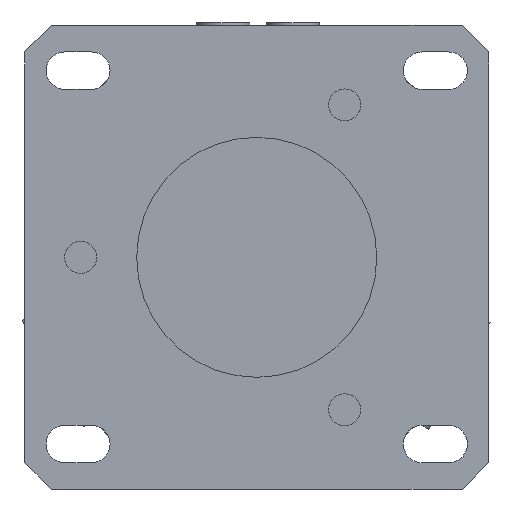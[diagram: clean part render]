
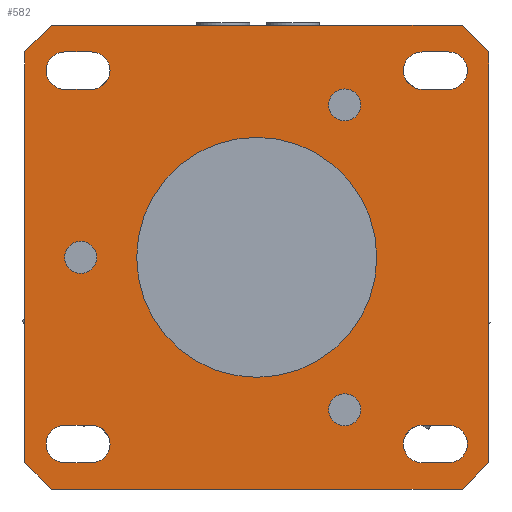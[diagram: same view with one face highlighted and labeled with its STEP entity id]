
A CAD part, front view. The second image highlights one B-rep face of the part: STEP entity #582.
In plain terms, the highlighted planar face has unit normal (0, -1, 0).
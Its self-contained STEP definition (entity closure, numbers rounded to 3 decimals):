
#72=FACE_BOUND('',#905,.T.);
#73=FACE_BOUND('',#906,.T.);
#74=FACE_BOUND('',#907,.T.);
#75=FACE_BOUND('',#908,.T.);
#76=FACE_BOUND('',#909,.T.);
#77=FACE_BOUND('',#910,.T.);
#78=FACE_BOUND('',#911,.T.);
#79=FACE_BOUND('',#912,.T.);
#80=FACE_BOUND('',#913,.T.);
#423=CIRCLE('',#2445,3.);
#425=CIRCLE('',#2448,3.);
#427=CIRCLE('',#2453,3.);
#429=CIRCLE('',#2456,22.5);
#431=CIRCLE('',#2469,3.5);
#433=CIRCLE('',#2473,3.5);
#435=CIRCLE('',#2476,3.5);
#437=CIRCLE('',#2480,3.5);
#439=CIRCLE('',#2483,3.5);
#441=CIRCLE('',#2487,3.5);
#443=CIRCLE('',#2490,3.5);
#445=CIRCLE('',#2494,3.5);
#582=ADVANCED_FACE('',(#72,#73,#74,#75,#76,#77,#78,#79,#80),#693,.T.);
#693=PLANE('',#2497);
#905=EDGE_LOOP('',(#1330));
#906=EDGE_LOOP('',(#1331,#1332,#1333,#1334));
#907=EDGE_LOOP('',(#1335,#1336,#1337,#1338));
#908=EDGE_LOOP('',(#1339,#1340,#1341,#1342));
#909=EDGE_LOOP('',(#1343,#1344,#1345,#1346));
#910=EDGE_LOOP('',(#1347));
#911=EDGE_LOOP('',(#1348));
#912=EDGE_LOOP('',(#1349,#1350,#1351,#1352,#1353,#1354,#1355,#1356));
#913=EDGE_LOOP('',(#1357));
#1330=ORIENTED_EDGE('',*,*,#1879,.T.);
#1331=ORIENTED_EDGE('',*,*,#1957,.F.);
#1332=ORIENTED_EDGE('',*,*,#1884,.F.);
#1333=ORIENTED_EDGE('',*,*,#1952,.F.);
#1334=ORIENTED_EDGE('',*,*,#1955,.F.);
#1335=ORIENTED_EDGE('',*,*,#1949,.F.);
#1336=ORIENTED_EDGE('',*,*,#1904,.F.);
#1337=ORIENTED_EDGE('',*,*,#1944,.F.);
#1338=ORIENTED_EDGE('',*,*,#1947,.F.);
#1339=ORIENTED_EDGE('',*,*,#1941,.F.);
#1340=ORIENTED_EDGE('',*,*,#1900,.F.);
#1341=ORIENTED_EDGE('',*,*,#1936,.F.);
#1342=ORIENTED_EDGE('',*,*,#1939,.F.);
#1343=ORIENTED_EDGE('',*,*,#1933,.F.);
#1344=ORIENTED_EDGE('',*,*,#1896,.F.);
#1345=ORIENTED_EDGE('',*,*,#1928,.F.);
#1346=ORIENTED_EDGE('',*,*,#1931,.F.);
#1347=ORIENTED_EDGE('',*,*,#1893,.F.);
#1348=ORIENTED_EDGE('',*,*,#1891,.F.);
#1349=ORIENTED_EDGE('',*,*,#1925,.F.);
#1350=ORIENTED_EDGE('',*,*,#1888,.F.);
#1351=ORIENTED_EDGE('',*,*,#1908,.F.);
#1352=ORIENTED_EDGE('',*,*,#1911,.F.);
#1353=ORIENTED_EDGE('',*,*,#1914,.F.);
#1354=ORIENTED_EDGE('',*,*,#1917,.F.);
#1355=ORIENTED_EDGE('',*,*,#1920,.F.);
#1356=ORIENTED_EDGE('',*,*,#1923,.F.);
#1357=ORIENTED_EDGE('',*,*,#1881,.F.);
#1649=VERTEX_POINT('',#3502);
#1651=VERTEX_POINT('',#3507);
#1654=VERTEX_POINT('',#3513);
#1655=VERTEX_POINT('',#3515);
#1658=VERTEX_POINT('',#3522);
#1659=VERTEX_POINT('',#3524);
#1661=VERTEX_POINT('',#3530);
#1663=VERTEX_POINT('',#3535);
#1666=VERTEX_POINT('',#3541);
#1667=VERTEX_POINT('',#3543);
#1670=VERTEX_POINT('',#3553);
#1671=VERTEX_POINT('',#3555);
#1674=VERTEX_POINT('',#3565);
#1675=VERTEX_POINT('',#3567);
#1677=VERTEX_POINT('',#3573);
#1679=VERTEX_POINT('',#3579);
#1681=VERTEX_POINT('',#3585);
#1683=VERTEX_POINT('',#3591);
#1685=VERTEX_POINT('',#3597);
#1687=VERTEX_POINT('',#3603);
#1689=VERTEX_POINT('',#3612);
#1691=VERTEX_POINT('',#3618);
#1693=VERTEX_POINT('',#3627);
#1695=VERTEX_POINT('',#3636);
#1697=VERTEX_POINT('',#3645);
#1699=VERTEX_POINT('',#3651);
#1701=VERTEX_POINT('',#3663);
#1703=VERTEX_POINT('',#3669);
#1879=EDGE_CURVE('',#1649,#1649,#423,.T.);
#1881=EDGE_CURVE('',#1651,#1651,#425,.T.);
#1884=EDGE_CURVE('',#1654,#1655,#2124,.T.);
#1888=EDGE_CURVE('',#1658,#1659,#2128,.T.);
#1891=EDGE_CURVE('',#1661,#1661,#427,.T.);
#1893=EDGE_CURVE('',#1663,#1663,#429,.T.);
#1896=EDGE_CURVE('',#1666,#1667,#2132,.T.);
#1900=EDGE_CURVE('',#1670,#1671,#2135,.T.);
#1904=EDGE_CURVE('',#1674,#1675,#2138,.T.);
#1908=EDGE_CURVE('',#1677,#1658,#2142,.T.);
#1911=EDGE_CURVE('',#1679,#1677,#2145,.T.);
#1914=EDGE_CURVE('',#1681,#1679,#2148,.T.);
#1917=EDGE_CURVE('',#1683,#1681,#2151,.T.);
#1920=EDGE_CURVE('',#1685,#1683,#2154,.T.);
#1923=EDGE_CURVE('',#1687,#1685,#2157,.T.);
#1925=EDGE_CURVE('',#1659,#1687,#2159,.T.);
#1928=EDGE_CURVE('',#1689,#1666,#431,.T.);
#1931=EDGE_CURVE('',#1691,#1689,#2163,.T.);
#1933=EDGE_CURVE('',#1667,#1691,#433,.T.);
#1936=EDGE_CURVE('',#1693,#1670,#435,.T.);
#1939=EDGE_CURVE('',#1695,#1693,#2166,.T.);
#1941=EDGE_CURVE('',#1671,#1695,#437,.T.);
#1944=EDGE_CURVE('',#1697,#1674,#439,.T.);
#1947=EDGE_CURVE('',#1699,#1697,#2170,.T.);
#1949=EDGE_CURVE('',#1675,#1699,#441,.T.);
#1952=EDGE_CURVE('',#1701,#1654,#443,.T.);
#1955=EDGE_CURVE('',#1703,#1701,#2173,.T.);
#1957=EDGE_CURVE('',#1655,#1703,#445,.T.);
#2124=LINE('',#3514,#2272);
#2128=LINE('',#3523,#2276);
#2132=LINE('',#3542,#2280);
#2135=LINE('',#3554,#2283);
#2138=LINE('',#3566,#2286);
#2142=LINE('',#3574,#2290);
#2145=LINE('',#3580,#2293);
#2148=LINE('',#3586,#2296);
#2151=LINE('',#3592,#2299);
#2154=LINE('',#3598,#2302);
#2157=LINE('',#3604,#2305);
#2159=LINE('',#3607,#2307);
#2163=LINE('',#3619,#2311);
#2166=LINE('',#3637,#2314);
#2170=LINE('',#3652,#2318);
#2173=LINE('',#3670,#2321);
#2272=VECTOR('',#2847,1.);
#2276=VECTOR('',#2853,1.);
#2280=VECTOR('',#2871,1.);
#2283=VECTOR('',#2876,1.);
#2286=VECTOR('',#2881,1.);
#2290=VECTOR('',#2887,1.);
#2293=VECTOR('',#2892,1.);
#2296=VECTOR('',#2897,1.);
#2299=VECTOR('',#2902,1.);
#2302=VECTOR('',#2907,1.);
#2305=VECTOR('',#2912,1.);
#2307=VECTOR('',#2916,1.);
#2311=VECTOR('',#2928,1.);
#2314=VECTOR('',#2945,1.);
#2318=VECTOR('',#2963,1.);
#2321=VECTOR('',#2980,1.);
#2445=AXIS2_PLACEMENT_3D('',#3501,#2835,#2836);
#2448=AXIS2_PLACEMENT_3D('',#3506,#2841,#2842);
#2453=AXIS2_PLACEMENT_3D('',#3529,#2859,#2860);
#2456=AXIS2_PLACEMENT_3D('',#3534,#2865,#2866);
#2469=AXIS2_PLACEMENT_3D('',#3613,#2922,#2923);
#2473=AXIS2_PLACEMENT_3D('',#3622,#2933,#2934);
#2476=AXIS2_PLACEMENT_3D('',#3628,#2940,#2941);
#2480=AXIS2_PLACEMENT_3D('',#3640,#2950,#2951);
#2483=AXIS2_PLACEMENT_3D('',#3646,#2957,#2958);
#2487=AXIS2_PLACEMENT_3D('',#3655,#2968,#2969);
#2490=AXIS2_PLACEMENT_3D('',#3664,#2974,#2975);
#2494=AXIS2_PLACEMENT_3D('',#3673,#2985,#2986);
#2497=AXIS2_PLACEMENT_3D('',#3676,#2991,#2992);
#2835=DIRECTION('',(0.,1.,0.));
#2836=DIRECTION('',(1.,0.,0.));
#2841=DIRECTION('',(0.,-1.,0.));
#2842=DIRECTION('',(1.,0.,0.));
#2847=DIRECTION('',(-1.,0.,0.));
#2853=DIRECTION('',(0.707,0.,0.707));
#2859=DIRECTION('',(0.,-1.,0.));
#2860=DIRECTION('',(1.,0.,0.));
#2865=DIRECTION('',(0.,-1.,0.));
#2866=DIRECTION('',(1.,0.,0.));
#2871=DIRECTION('',(-1.,0.,0.));
#2876=DIRECTION('',(-1.,0.,0.));
#2881=DIRECTION('',(-1.,0.,0.));
#2887=DIRECTION('',(0.,0.,1.));
#2892=DIRECTION('',(-0.707,0.,0.707));
#2897=DIRECTION('',(-1.,0.,0.));
#2902=DIRECTION('',(-0.707,0.,-0.707));
#2907=DIRECTION('',(0.,0.,-1.));
#2912=DIRECTION('',(0.707,0.,-0.707));
#2916=DIRECTION('',(1.,0.,0.));
#2922=DIRECTION('',(0.,-1.,0.));
#2923=DIRECTION('',(1.,0.,0.));
#2928=DIRECTION('',(1.,0.,0.));
#2933=DIRECTION('',(0.,-1.,0.));
#2934=DIRECTION('',(1.,0.,0.));
#2940=DIRECTION('',(0.,-1.,0.));
#2941=DIRECTION('',(1.,0.,0.));
#2945=DIRECTION('',(1.,0.,0.));
#2950=DIRECTION('',(0.,-1.,0.));
#2951=DIRECTION('',(1.,0.,0.));
#2957=DIRECTION('',(0.,-1.,0.));
#2958=DIRECTION('',(1.,0.,0.));
#2963=DIRECTION('',(1.,0.,0.));
#2968=DIRECTION('',(0.,-1.,0.));
#2969=DIRECTION('',(1.,0.,0.));
#2974=DIRECTION('',(0.,-1.,0.));
#2975=DIRECTION('',(1.,0.,0.));
#2980=DIRECTION('',(1.,0.,0.));
#2985=DIRECTION('',(0.,-1.,0.));
#2986=DIRECTION('',(1.,0.,0.));
#2991=DIRECTION('',(0.,-1.,0.));
#2992=DIRECTION('',(0.,0.,-1.));
#3501=CARTESIAN_POINT('',(3077.751,-7891.093,0.));
#3502=CARTESIAN_POINT('',(3080.751,-7891.093,0.));
#3506=CARTESIAN_POINT('',(3127.251,-7891.093,-28.579));
#3507=CARTESIAN_POINT('',(3130.251,-7891.093,-28.579));
#3513=CARTESIAN_POINT('',(3146.751,-7891.093,38.5));
#3514=CARTESIAN_POINT('',(3146.751,-7891.093,38.5));
#3515=CARTESIAN_POINT('',(3141.751,-7891.093,38.5));
#3522=CARTESIAN_POINT('',(3067.251,-7891.093,38.5));
#3523=CARTESIAN_POINT('',(3067.251,-7891.093,38.5));
#3524=CARTESIAN_POINT('',(3072.251,-7891.093,43.5));
#3529=CARTESIAN_POINT('',(3127.251,-7891.093,28.579));
#3530=CARTESIAN_POINT('',(3130.251,-7891.093,28.579));
#3534=CARTESIAN_POINT('',(3110.751,-7891.093,0.));
#3535=CARTESIAN_POINT('',(3133.251,-7891.093,0.));
#3541=CARTESIAN_POINT('',(3079.751,-7891.093,-31.5));
#3542=CARTESIAN_POINT('',(3079.751,-7891.093,-31.5));
#3543=CARTESIAN_POINT('',(3074.751,-7891.093,-31.5));
#3553=CARTESIAN_POINT('',(3079.751,-7891.093,38.5));
#3554=CARTESIAN_POINT('',(3079.751,-7891.093,38.5));
#3555=CARTESIAN_POINT('',(3074.751,-7891.093,38.5));
#3565=CARTESIAN_POINT('',(3146.751,-7891.093,-31.5));
#3566=CARTESIAN_POINT('',(3146.751,-7891.093,-31.5));
#3567=CARTESIAN_POINT('',(3141.751,-7891.093,-31.5));
#3573=CARTESIAN_POINT('',(3067.251,-7891.093,-38.5));
#3574=CARTESIAN_POINT('',(3067.251,-7891.093,-38.5));
#3579=CARTESIAN_POINT('',(3072.251,-7891.093,-43.5));
#3580=CARTESIAN_POINT('',(3072.251,-7891.093,-43.5));
#3585=CARTESIAN_POINT('',(3149.251,-7891.093,-43.5));
#3586=CARTESIAN_POINT('',(3149.251,-7891.093,-43.5));
#3591=CARTESIAN_POINT('',(3154.251,-7891.093,-38.5));
#3592=CARTESIAN_POINT('',(3154.251,-7891.093,-38.5));
#3597=CARTESIAN_POINT('',(3154.251,-7891.093,38.5));
#3598=CARTESIAN_POINT('',(3154.251,-7891.093,38.5));
#3603=CARTESIAN_POINT('',(3149.251,-7891.093,43.5));
#3604=CARTESIAN_POINT('',(3149.251,-7891.093,43.5));
#3607=CARTESIAN_POINT('',(3072.251,-7891.093,43.5));
#3612=CARTESIAN_POINT('',(3079.751,-7891.093,-38.5));
#3613=CARTESIAN_POINT('',(3079.751,-7891.093,-35.));
#3618=CARTESIAN_POINT('',(3074.751,-7891.093,-38.5));
#3619=CARTESIAN_POINT('',(3074.751,-7891.093,-38.5));
#3622=CARTESIAN_POINT('',(3074.751,-7891.093,-35.));
#3627=CARTESIAN_POINT('',(3079.751,-7891.093,31.5));
#3628=CARTESIAN_POINT('',(3079.751,-7891.093,35.));
#3636=CARTESIAN_POINT('',(3074.751,-7891.093,31.5));
#3637=CARTESIAN_POINT('',(3074.751,-7891.093,31.5));
#3640=CARTESIAN_POINT('',(3074.751,-7891.093,35.));
#3645=CARTESIAN_POINT('',(3146.751,-7891.093,-38.5));
#3646=CARTESIAN_POINT('',(3146.751,-7891.093,-35.));
#3651=CARTESIAN_POINT('',(3141.751,-7891.093,-38.5));
#3652=CARTESIAN_POINT('',(3141.751,-7891.093,-38.5));
#3655=CARTESIAN_POINT('',(3141.751,-7891.093,-35.));
#3663=CARTESIAN_POINT('',(3146.751,-7891.093,31.5));
#3664=CARTESIAN_POINT('',(3146.751,-7891.093,35.));
#3669=CARTESIAN_POINT('',(3141.751,-7891.093,31.5));
#3670=CARTESIAN_POINT('',(3141.751,-7891.093,31.5));
#3673=CARTESIAN_POINT('',(3141.751,-7891.093,35.));
#3676=CARTESIAN_POINT('',(3127.251,-7891.093,28.579));
